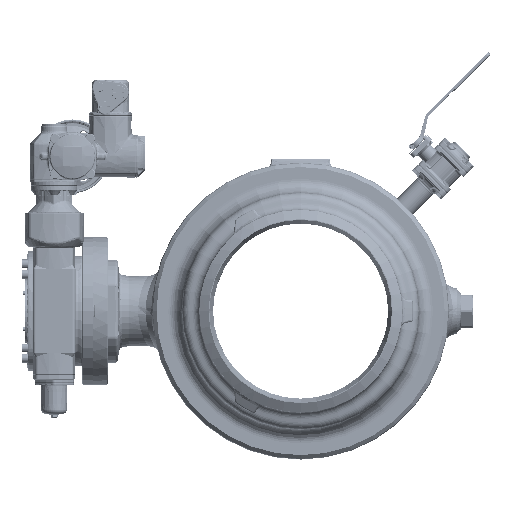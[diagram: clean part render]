
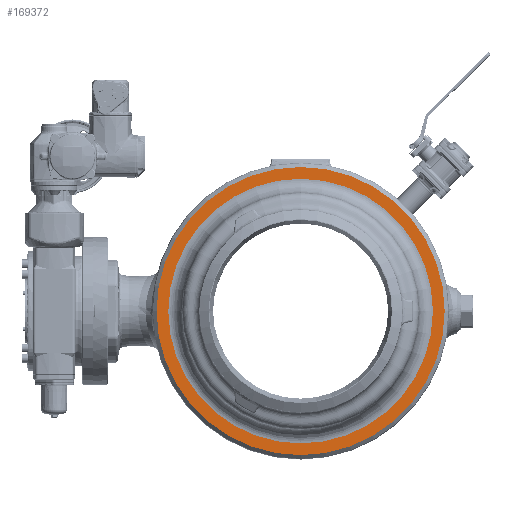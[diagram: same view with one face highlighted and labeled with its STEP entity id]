
A CAD part, left-side view. The second image highlights one B-rep face of the part: STEP entity #169372.
In plain terms, the highlighted planar face has unit normal (-1, 0, 0).
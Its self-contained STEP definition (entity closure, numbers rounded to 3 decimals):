
#37459=CARTESIAN_POINT('',(-197.,0.,0.));
#37460=DIRECTION('',(-1.,0.,0.));
#37461=DIRECTION('',(0.,0.,1.));
#37462=AXIS2_PLACEMENT_3D('',#37459,#37460,#37461);
#37464=CARTESIAN_POINT('',(-197.,0.,0.));
#37465=DIRECTION('',(-1.,0.,0.));
#37466=DIRECTION('',(0.,0.,-1.));
#37467=AXIS2_PLACEMENT_3D('',#37464,#37465,#37466);
#37469=CARTESIAN_POINT('',(-197.,0.,0.));
#37470=DIRECTION('',(1.,0.,0.));
#37471=DIRECTION('',(0.,0.,-1.));
#37472=AXIS2_PLACEMENT_3D('',#37469,#37470,#37471);
#37474=CARTESIAN_POINT('',(-197.,0.,0.));
#37475=DIRECTION('',(1.,0.,0.));
#37476=DIRECTION('',(0.,0.,1.));
#37477=AXIS2_PLACEMENT_3D('',#37474,#37475,#37476);
#90030=CARTESIAN_POINT('',(-197.,0.,-359.062));
#90031=CARTESIAN_POINT('',(-197.,0.,359.062));
#90032=VERTEX_POINT('',#90030);
#90033=VERTEX_POINT('',#90031);
#90215=CARTESIAN_POINT('',(-197.,0.,391.));
#90216=CARTESIAN_POINT('',(-197.,0.,-391.));
#90217=VERTEX_POINT('',#90215);
#90218=VERTEX_POINT('',#90216);
#169357=CARTESIAN_POINT('',(-197.,0.,0.));
#169358=DIRECTION('',(-1.,0.,0.));
#169359=DIRECTION('',(0.,0.,1.));
#169360=AXIS2_PLACEMENT_3D('',#169357,#169358,#169359);
#169361=PLANE('',#169360);
#169363=ORIENTED_EDGE('',*,*,#169362,.F.);
#169365=ORIENTED_EDGE('',*,*,#169364,.F.);
#169366=EDGE_LOOP('',(#169363,#169365));
#169367=FACE_OUTER_BOUND('',#169366,.F.);
#169368=ORIENTED_EDGE('',*,*,#169339,.F.);
#169369=ORIENTED_EDGE('',*,*,#169324,.F.);
#169370=EDGE_LOOP('',(#169368,#169369));
#169371=FACE_BOUND('',#169370,.F.);
#169372=ADVANCED_FACE('',(#169367,#169371),#169361,.T.);
#37463=CIRCLE('',#37462,391.);
#37468=CIRCLE('',#37467,391.);
#37473=CIRCLE('',#37472,359.062);
#37478=CIRCLE('',#37477,359.062);
#169324=EDGE_CURVE('',#90033,#90032,#37478,.T.);
#169339=EDGE_CURVE('',#90032,#90033,#37473,.T.);
#169362=EDGE_CURVE('',#90217,#90218,#37463,.T.);
#169364=EDGE_CURVE('',#90218,#90217,#37468,.T.);
